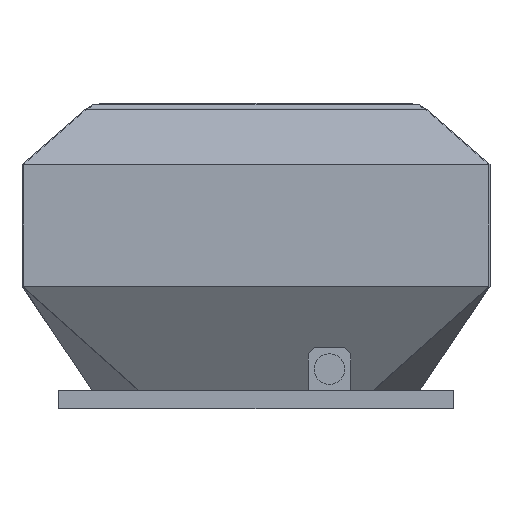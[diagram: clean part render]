
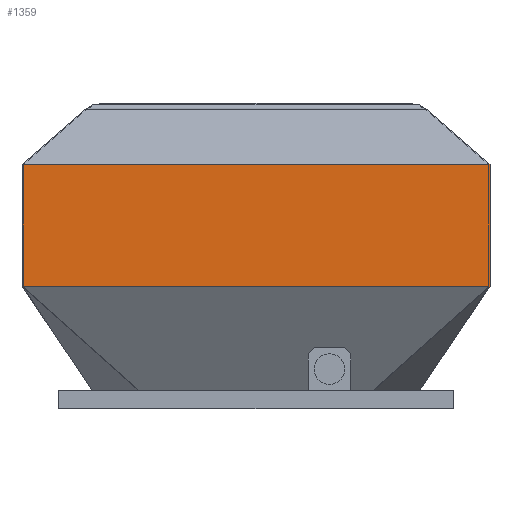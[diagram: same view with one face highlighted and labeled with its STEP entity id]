
A CAD part, left-side view. The second image highlights one B-rep face of the part: STEP entity #1359.
In plain terms, the highlighted planar face has unit normal (-1, 0, 0) by its records, which use the part's own axes.
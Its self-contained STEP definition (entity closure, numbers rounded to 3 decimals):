
#157=FACE_OUTER_BOUND('',#267,.T.);
#267=EDGE_LOOP('',(#1193,#1194,#1195,#1196));
#395=LINE('',#2327,#546);
#418=LINE('',#2374,#569);
#419=LINE('',#2376,#570);
#420=LINE('',#2377,#571);
#546=VECTOR('',#1768,10.);
#569=VECTOR('',#1813,10.);
#570=VECTOR('',#1816,10.);
#571=VECTOR('',#1817,10.);
#584=VERTEX_POINT('',#1860);
#671=VERTEX_POINT('',#2315);
#672=VERTEX_POINT('',#2319);
#685=VERTEX_POINT('',#2371);
#833=EDGE_CURVE('',#671,#672,#395,.T.);
#856=EDGE_CURVE('',#685,#671,#418,.T.);
#857=EDGE_CURVE('',#584,#685,#419,.T.);
#858=EDGE_CURVE('',#584,#672,#420,.T.);
#1193=ORIENTED_EDGE('',*,*,#857,.T.);
#1194=ORIENTED_EDGE('',*,*,#856,.T.);
#1195=ORIENTED_EDGE('',*,*,#833,.T.);
#1196=ORIENTED_EDGE('',*,*,#858,.F.);
#1277=PLANE('',#1468);
#1359=ADVANCED_FACE('',(#157),#1277,.F.);
#1468=AXIS2_PLACEMENT_3D('',#2375,#1814,#1815);
#1768=DIRECTION('',(0.,-1.,0.));
#1813=DIRECTION('',(0.,0.,-1.));
#1814=DIRECTION('center_axis',(1.,0.,0.));
#1815=DIRECTION('ref_axis',(0.,0.,-1.));
#1816=DIRECTION('',(0.,1.,0.));
#1817=DIRECTION('',(0.,0.,-1.));
#1860=CARTESIAN_POINT('',(-382.5,-382.5,400.));
#2315=CARTESIAN_POINT('',(-382.5,382.5,200.));
#2319=CARTESIAN_POINT('',(-382.5,-382.5,200.));
#2327=CARTESIAN_POINT('',(-382.5,382.5,200.));
#2371=CARTESIAN_POINT('',(-382.5,382.5,400.));
#2374=CARTESIAN_POINT('',(-382.5,382.5,400.));
#2375=CARTESIAN_POINT('Origin',(-382.5,382.5,400.));
#2376=CARTESIAN_POINT('',(-382.5,382.5,400.));
#2377=CARTESIAN_POINT('',(-382.5,-382.5,400.));
